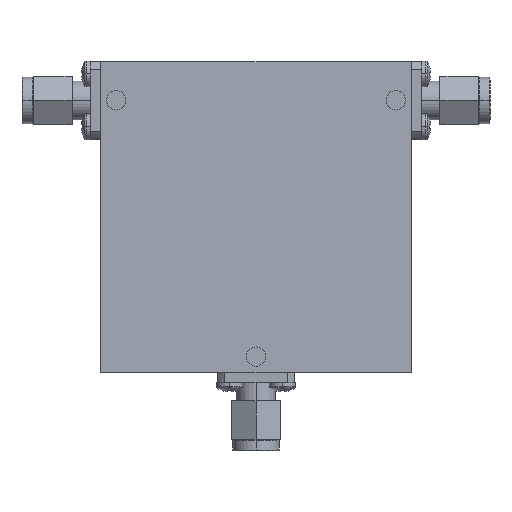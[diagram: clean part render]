
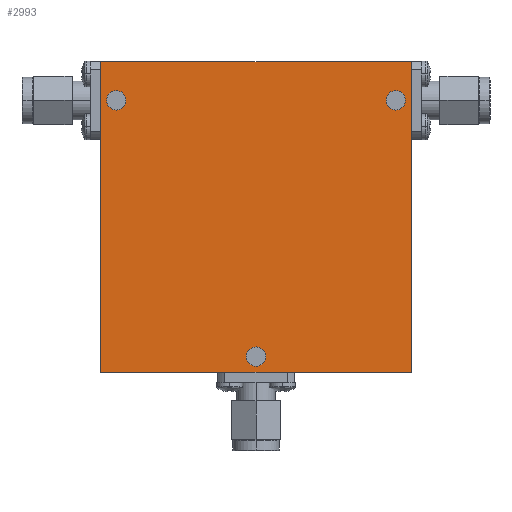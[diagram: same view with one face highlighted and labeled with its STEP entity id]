
A CAD part, top view. The second image highlights one B-rep face of the part: STEP entity #2993.
In plain terms, the highlighted planar face has unit normal (0, 0, 1) as drawn and (0, 0, -1) by its records, which use the part's own axes.
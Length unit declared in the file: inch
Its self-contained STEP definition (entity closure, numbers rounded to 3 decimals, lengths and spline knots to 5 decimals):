
#11 = CIRCLE ( 'NONE', #2946, 0.0625 ) ;
#39 = LINE ( 'NONE', #2024, #162 ) ;
#64 = FACE_BOUND ( 'NONE', #65, .T. ) ;
#65 = EDGE_LOOP ( 'NONE', ( #2138, #2808 ) ) ;
#67 = CARTESIAN_POINT ( 'NONE',  ( 0.25, -0.65, -0.35 ) ) ;
#139 = AXIS2_PLACEMENT_3D ( 'NONE', #1835, #700, #931 ) ;
#150 = FACE_BOUND ( 'NONE', #968, .T. ) ;
#152 = VERTEX_POINT ( 'NONE', #203 ) ;
#162 = VECTOR ( 'NONE', #1011, 39.37008 ) ;
#203 = CARTESIAN_POINT ( 'NONE',  ( 0.1875, -0.65, -0.35 ) ) ;
#206 = DIRECTION ( 'NONE',  ( 0., 0., 1. ) ) ;
#239 = CARTESIAN_POINT ( 'NONE',  ( 0.3125, -0.65, -0.35 ) ) ;
#280 = EDGE_LOOP ( 'NONE', ( #3047, #3022 ) ) ;
#302 = CARTESIAN_POINT ( 'NONE',  ( 1.0875, 1., -0.35 ) ) ;
#305 = DIRECTION ( 'NONE',  ( 0., 0., 1. ) ) ;
#315 = VERTEX_POINT ( 'NONE', #2649 ) ;
#324 = EDGE_CURVE ( 'NONE', #3231, #2496, #392, .T. ) ;
#392 = LINE ( 'NONE', #2660, #2054 ) ;
#448 = LINE ( 'NONE', #2089, #1277 ) ;
#566 = EDGE_CURVE ( 'NONE', #2127, #903, #39, .T. ) ;
#592 = ORIENTED_EDGE ( 'NONE', *, *, #961, .F. ) ;
#664 = CARTESIAN_POINT ( 'NONE',  ( -0.75, 1.25, -0.35 ) ) ;
#691 = DIRECTION ( 'NONE',  ( 0., 0., 1. ) ) ;
#700 = DIRECTION ( 'NONE',  ( 0., 0., 1. ) ) ;
#765 = CIRCLE ( 'NONE', #139, 0.0625 ) ;
#843 = DIRECTION ( 'NONE',  ( 0., 0., 1. ) ) ;
#852 = ORIENTED_EDGE ( 'NONE', *, *, #1183, .T. ) ;
#903 = VERTEX_POINT ( 'NONE', #1975 ) ;
#931 = DIRECTION ( 'NONE',  ( 1., 0., 0. ) ) ;
#961 = EDGE_CURVE ( 'NONE', #2496, #2127, #448, .T. ) ;
#968 = EDGE_LOOP ( 'NONE', ( #2883, #852 ) ) ;
#1011 = DIRECTION ( 'NONE',  ( 0., 1., 0. ) ) ;
#1016 = CARTESIAN_POINT ( 'NONE',  ( 1.2125, 1., -0.35 ) ) ;
#1040 = CIRCLE ( 'NONE', #2676, 0.0625 ) ;
#1048 = VERTEX_POINT ( 'NONE', #302 ) ;
#1089 = VERTEX_POINT ( 'NONE', #1115 ) ;
#1112 = CIRCLE ( 'NONE', #2193, 0.0625 ) ;
#1115 = CARTESIAN_POINT ( 'NONE',  ( -0.7125, 1., -0.35 ) ) ;
#1160 = DIRECTION ( 'NONE',  ( 0., 0., 1. ) ) ;
#1183 = EDGE_CURVE ( 'NONE', #152, #2932, #3299, .T. ) ;
#1191 = DIRECTION ( 'NONE',  ( -1., 0., 0. ) ) ;
#1239 = CARTESIAN_POINT ( 'NONE',  ( -0.75, 1.25, -0.35 ) ) ;
#1272 = EDGE_CURVE ( 'NONE', #1089, #315, #11, .T. ) ;
#1277 = VECTOR ( 'NONE', #2065, 39.37008 ) ;
#1452 = EDGE_CURVE ( 'NONE', #2932, #152, #1112, .T. ) ;
#1526 = CARTESIAN_POINT ( 'NONE',  ( 1.25, -0.75, -0.35 ) ) ;
#1583 = VECTOR ( 'NONE', #1191, 39.37008 ) ;
#1657 = DIRECTION ( 'NONE',  ( 0., -1., 0. ) ) ;
#1754 = CARTESIAN_POINT ( 'NONE',  ( 1.15, 1., -0.35 ) ) ;
#1808 = LINE ( 'NONE', #664, #1583 ) ;
#1835 = CARTESIAN_POINT ( 'NONE',  ( -0.65, 1., -0.35 ) ) ;
#1975 = CARTESIAN_POINT ( 'NONE',  ( 1.25, 1.25, -0.35 ) ) ;
#2012 = ORIENTED_EDGE ( 'NONE', *, *, #566, .F. ) ;
#2024 = CARTESIAN_POINT ( 'NONE',  ( 1.25, 1.25, -0.35 ) ) ;
#2054 = VECTOR ( 'NONE', #1657, 39.37008 ) ;
#2065 = DIRECTION ( 'NONE',  ( 1., 0., 0. ) ) ;
#2089 = CARTESIAN_POINT ( 'NONE',  ( -0.75, -0.75, -0.35 ) ) ;
#2127 = VERTEX_POINT ( 'NONE', #1526 ) ;
#2138 = ORIENTED_EDGE ( 'NONE', *, *, #2331, .T. ) ;
#2193 = AXIS2_PLACEMENT_3D ( 'NONE', #2424, #1160, #2930 ) ;
#2243 = FACE_BOUND ( 'NONE', #280, .T. ) ;
#2259 = DIRECTION ( 'NONE',  ( 1., 0., 0. ) ) ;
#2286 = VERTEX_POINT ( 'NONE', #1016 ) ;
#2331 = EDGE_CURVE ( 'NONE', #315, #1089, #765, .T. ) ;
#2346 = PLANE ( 'NONE',  #3101 ) ;
#2362 = DIRECTION ( 'NONE',  ( 0., 0., 1. ) ) ;
#2373 = DIRECTION ( 'NONE',  ( 1., 0., 0. ) ) ;
#2405 = CIRCLE ( 'NONE', #2723, 0.0625 ) ;
#2418 = EDGE_LOOP ( 'NONE', ( #2012, #592, #2903, #2969 ) ) ;
#2424 = CARTESIAN_POINT ( 'NONE',  ( 0.25, -0.65, -0.35 ) ) ;
#2496 = VERTEX_POINT ( 'NONE', #2642 ) ;
#2497 = AXIS2_PLACEMENT_3D ( 'NONE', #67, #843, #2626 ) ;
#2622 = EDGE_CURVE ( 'NONE', #1048, #2286, #2405, .T. ) ;
#2625 = EDGE_CURVE ( 'NONE', #903, #3231, #1808, .T. ) ;
#2626 = DIRECTION ( 'NONE',  ( 1., 0., 0. ) ) ;
#2629 = CARTESIAN_POINT ( 'NONE',  ( -0.65, 1., -0.35 ) ) ;
#2642 = CARTESIAN_POINT ( 'NONE',  ( -0.75, -0.75, -0.35 ) ) ;
#2648 = EDGE_CURVE ( 'NONE', #2286, #1048, #1040, .T. ) ;
#2649 = CARTESIAN_POINT ( 'NONE',  ( -0.5875, 1., -0.35 ) ) ;
#2660 = CARTESIAN_POINT ( 'NONE',  ( -0.75, 1.25, -0.35 ) ) ;
#2676 = AXIS2_PLACEMENT_3D ( 'NONE', #3040, #691, #2259 ) ;
#2723 = AXIS2_PLACEMENT_3D ( 'NONE', #1754, #206, #3267 ) ;
#2762 = FACE_OUTER_BOUND ( 'NONE', #2418, .T. ) ;
#2808 = ORIENTED_EDGE ( 'NONE', *, *, #1272, .T. ) ;
#2839 = CARTESIAN_POINT ( 'NONE',  ( 0., 0., -0.35 ) ) ;
#2883 = ORIENTED_EDGE ( 'NONE', *, *, #1452, .T. ) ;
#2903 = ORIENTED_EDGE ( 'NONE', *, *, #324, .F. ) ;
#2930 = DIRECTION ( 'NONE',  ( 1., 0., 0. ) ) ;
#2932 = VERTEX_POINT ( 'NONE', #239 ) ;
#2946 = AXIS2_PLACEMENT_3D ( 'NONE', #2629, #305, #3117 ) ;
#2969 = ORIENTED_EDGE ( 'NONE', *, *, #2625, .F. ) ;
#2993 = ADVANCED_FACE ( 'NONE', ( #2243, #150, #64, #2762 ), #2346, .F. ) ;
#3022 = ORIENTED_EDGE ( 'NONE', *, *, #2622, .T. ) ;
#3040 = CARTESIAN_POINT ( 'NONE',  ( 1.15, 1., -0.35 ) ) ;
#3047 = ORIENTED_EDGE ( 'NONE', *, *, #2648, .T. ) ;
#3101 = AXIS2_PLACEMENT_3D ( 'NONE', #2839, #2362, #2373 ) ;
#3117 = DIRECTION ( 'NONE',  ( 1., 0., 0. ) ) ;
#3231 = VERTEX_POINT ( 'NONE', #1239 ) ;
#3267 = DIRECTION ( 'NONE',  ( 1., 0., 0. ) ) ;
#3299 = CIRCLE ( 'NONE', #2497, 0.0625 ) ;
